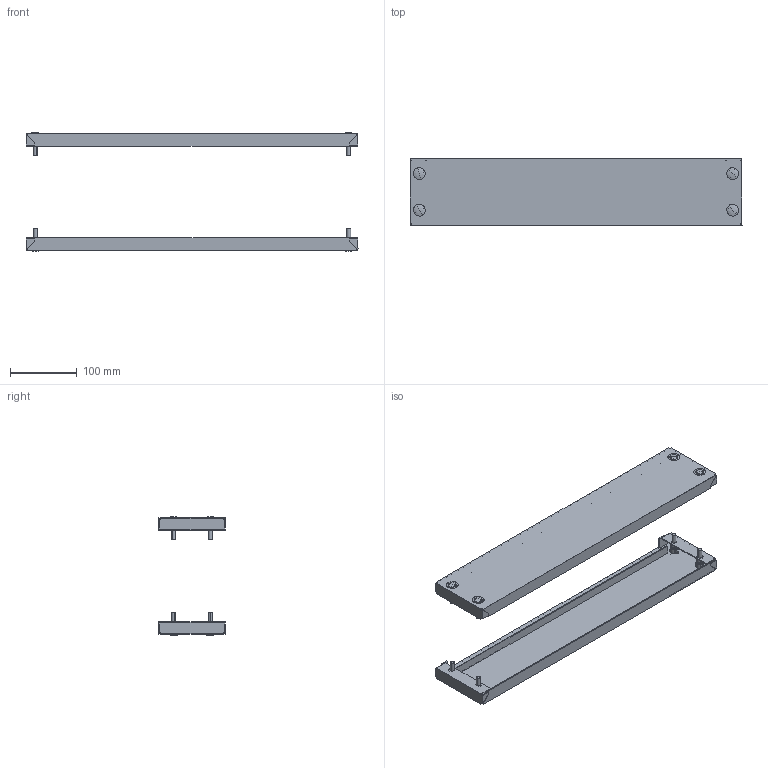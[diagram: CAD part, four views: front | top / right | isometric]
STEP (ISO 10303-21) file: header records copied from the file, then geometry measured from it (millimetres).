
FILE_DESCRIPTION (( 'STEP AP203' ), '1' );
FILE_NAME ('R5FZ5-200.STEP', '2025-06-18T08:31:38', ( '' ), ( '' ), 'SwSTEP 2.0', 'SolidWorks 2022', '' );
FILE_SCHEMA (( 'CONFIG_CONTROL_DESIGN' ));
Length unit declared in the file: millimetre
Products named in the file (5): 6 DIN 6798 A Zinc; R5FZ5-200; Plug_11.5-13Д18ЧК_-00; M6x16 DIN 912 HX cl.4,8 Zinc_stright; RB.1055.00.00.0 simple_-01 (500)
Assembly tree (26 placements, depth 2):
  R5FZ5-200
    RB.1055.00.00.0 simple_-01 (500)  x2
    M6x16 DIN 912 HX cl.4,8 Zinc_stright  x8
    6 DIN 6798 A Zinc  x8
    Plug_11.5-13Д18ЧК_-00  x8
Bounding box: 499 x 100.05 x 178.5 mm (x, y, z)
Volume: 250300.8 mm3; surface area: 339943.7 mm2
Topology: 26 solids, 26 shells, 1196 faces, 3456 edges, 2112 vertices
Faces by surface type: plane 700, bspline 208, cylinder 128, cone 96, torus 48, sphere 16
Entity records: 9921 total; most frequent: CARTESIAN_POINT 2626, ORIENTED_EDGE 1352, DIRECTION 1188, EDGE_CURVE 676, VECTOR 448, LINE 448, VERTEX_POINT 444, AXIS2_PLACEMENT_3D 370
